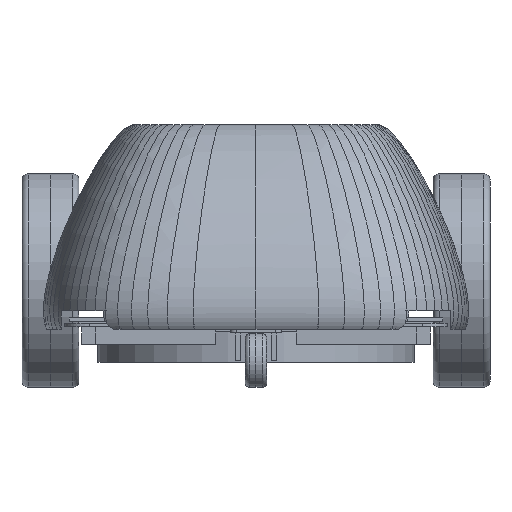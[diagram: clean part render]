
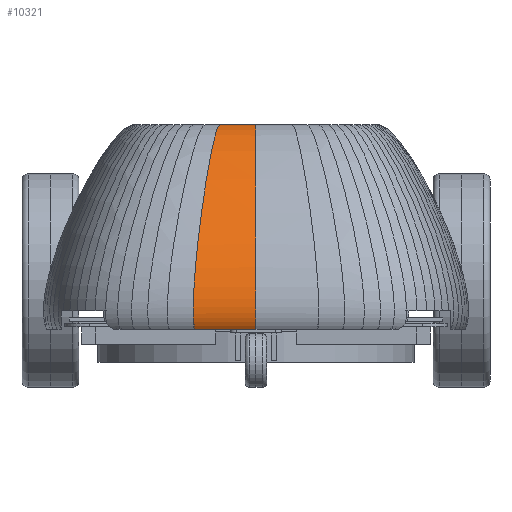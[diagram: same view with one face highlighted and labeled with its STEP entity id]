
A CAD part, left-side view. The second image highlights one B-rep face of the part: STEP entity #10321.
In plain terms, the highlighted free-form (B-spline) face has degree [1, 3] with [2, 4] control points.
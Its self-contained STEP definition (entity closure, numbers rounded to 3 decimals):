
#1055 = PLANE('',#1056);
#1056 = AXIS2_PLACEMENT_3D('',#1057,#1058,#1059);
#1057 = CARTESIAN_POINT('',(195.,0.,295.));
#1058 = DIRECTION('',(0.,0.,1.));
#1059 = DIRECTION('',(-0.984,0.178,0.));
#3799 = VERTEX_POINT('',#3800);
#3800 = CARTESIAN_POINT('',(-194.629,40.593,295.));
#3812 = ( BOUNDED_SURFACE() B_SPLINE_SURFACE(1,3,(
    (#3813,#3814,#3815,#3816)
    ,(#3817,#3818,#3819,#3820
)),.UNSPECIFIED.,.F.,.F.,.F.) B_SPLINE_SURFACE_WITH_KNOTS((2,2),(4,4),(
    34.,35.),(0.,1.),.PIECEWISE_BEZIER_KNOTS.) 
GEOMETRIC_REPRESENTATION_ITEM() RATIONAL_B_SPLINE_SURFACE((
    (1.,1.,1.,1.)
,(1.,1.,1.,1.))) REPRESENTATION_ITEM('') SURFACE() );
#3813 = CARTESIAN_POINT('',(-347.331,97.927,65.));
#3814 = CARTESIAN_POINT('',(-381.651,107.824,
    111.667));
#3815 = CARTESIAN_POINT('',(-259.671,70.841,
    293.333));
#3816 = CARTESIAN_POINT('',(-193.513,57.298,295.));
#3817 = CARTESIAN_POINT('',(-349.333,69.377,65.));
#3818 = CARTESIAN_POINT('',(-383.851,76.389,
    111.667));
#3819 = CARTESIAN_POINT('',(-261.168,50.188,
    293.333));
#3820 = CARTESIAN_POINT('',(-194.629,40.593,295.));
#3828 = EDGE_CURVE('',#3799,#3829,#3831,.T.);
#3829 = VERTEX_POINT('',#3830);
#3830 = CARTESIAN_POINT('',(-195.,0.,295.));
#3831 = SURFACE_CURVE('',#3832,(#3835,#3841),.PCURVE_S1.);
#3832 = B_SPLINE_CURVE_WITH_KNOTS('',1,(#3833,#3834),.UNSPECIFIED.,.F.,
  .F.,(2,2),(35.,36.),.PIECEWISE_BEZIER_KNOTS.);
#3833 = CARTESIAN_POINT('',(-194.629,40.593,295.));
#3834 = CARTESIAN_POINT('',(-195.,0.,295.));
#3835 = PCURVE('',#1055,#3836);
#3836 = DEFINITIONAL_REPRESENTATION('',(#3837),#3840);
#3837 = B_SPLINE_CURVE_WITH_KNOTS('',1,(#3838,#3839),.UNSPECIFIED.,.F.,
  .F.,(2,2),(35.,36.),.PIECEWISE_BEZIER_KNOTS.);
#3838 = CARTESIAN_POINT('',(390.631,29.421));
#3839 = CARTESIAN_POINT('',(383.77,69.431));
#3840 = ( GEOMETRIC_REPRESENTATION_CONTEXT(2) 
PARAMETRIC_REPRESENTATION_CONTEXT() REPRESENTATION_CONTEXT('2D SPACE',''
  ) );
#3841 = PCURVE('',#3842,#3851);
#3842 = ( BOUNDED_SURFACE() B_SPLINE_SURFACE(1,3,(
    (#3843,#3844,#3845,#3846)
    ,(#3847,#3848,#3849,#3850
)),.UNSPECIFIED.,.F.,.F.,.F.) B_SPLINE_SURFACE_WITH_KNOTS((2,2),(4,4),(
    35.,36.),(0.,1.),.PIECEWISE_BEZIER_KNOTS.) 
GEOMETRIC_REPRESENTATION_ITEM() RATIONAL_B_SPLINE_SURFACE((
    (1.,1.,1.,1.)
,(1.,1.,1.,1.))) REPRESENTATION_ITEM('') SURFACE() );
#3843 = CARTESIAN_POINT('',(-349.333,69.377,65.));
#3844 = CARTESIAN_POINT('',(-383.851,76.389,
    111.667));
#3845 = CARTESIAN_POINT('',(-261.168,50.188,
    293.333));
#3846 = CARTESIAN_POINT('',(-194.629,40.593,295.));
#3847 = CARTESIAN_POINT('',(-350.,0.,65.));
#3848 = CARTESIAN_POINT('',(-384.583,0.,
    111.667));
#3849 = CARTESIAN_POINT('',(-261.667,0.,
    293.333));
#3850 = CARTESIAN_POINT('',(-195.,0.,295.));
#3851 = DEFINITIONAL_REPRESENTATION('',(#3852),#3856);
#3852 = LINE('',#3853,#3854);
#3853 = CARTESIAN_POINT('',(0.,1.));
#3854 = VECTOR('',#3855,1.);
#3855 = DIRECTION('',(1.,0.));
#3856 = ( GEOMETRIC_REPRESENTATION_CONTEXT(2) 
PARAMETRIC_REPRESENTATION_CONTEXT() REPRESENTATION_CONTEXT('2D SPACE',''
  ) );
#3872 = ( BOUNDED_SURFACE() B_SPLINE_SURFACE(1,3,(
    (#3873,#3874,#3875,#3876)
    ,(#3877,#3878,#3879,#3880
)),.UNSPECIFIED.,.F.,.F.,.F.) B_SPLINE_SURFACE_WITH_KNOTS((2,2),(4,4),(
    36.,37.),(0.,1.),.PIECEWISE_BEZIER_KNOTS.) 
GEOMETRIC_REPRESENTATION_ITEM() RATIONAL_B_SPLINE_SURFACE((
    (1.,1.,1.,1.)
,(1.,1.,1.,1.))) REPRESENTATION_ITEM('') SURFACE() );
#3873 = CARTESIAN_POINT('',(-350.,0.,65.));
#3874 = CARTESIAN_POINT('',(-384.583,0.,
    111.667));
#3875 = CARTESIAN_POINT('',(-261.667,0.,
    293.333));
#3876 = CARTESIAN_POINT('',(-195.,0.,295.));
#3877 = CARTESIAN_POINT('',(-349.333,-69.377,65.));
#3878 = CARTESIAN_POINT('',(-383.851,-76.389,
    111.667));
#3879 = CARTESIAN_POINT('',(-261.168,-50.188,
    293.333));
#3880 = CARTESIAN_POINT('',(-194.629,-40.593,295.));
#10095 = PLANE('',#10096);
#10096 = AXIS2_PLACEMENT_3D('',#10097,#10098,#10099);
#10097 = CARTESIAN_POINT('',(350.,0.,65.));
#10098 = DIRECTION('',(0.,0.,1.));
#10099 = DIRECTION('',(-0.985,0.17,0.));
#10278 = VERTEX_POINT('',#10279);
#10279 = CARTESIAN_POINT('',(-349.333,69.377,65.));
#10298 = EDGE_CURVE('',#10278,#3799,#10299,.T.);
#10299 = SURFACE_CURVE('',#10300,(#10305,#10312),.PCURVE_S1.);
#10300 = ( BOUNDED_CURVE() B_SPLINE_CURVE(3,(#10301,#10302,#10303,#10304
),.UNSPECIFIED.,.F.,.F.) B_SPLINE_CURVE_WITH_KNOTS((4,4),(0.,1.),
.PIECEWISE_BEZIER_KNOTS.) CURVE() GEOMETRIC_REPRESENTATION_ITEM() 
RATIONAL_B_SPLINE_CURVE((1.,1.,1.,1.)) REPRESENTATION_ITEM('') );
#10301 = CARTESIAN_POINT('',(-349.333,69.377,65.));
#10302 = CARTESIAN_POINT('',(-383.851,76.389,
    111.667));
#10303 = CARTESIAN_POINT('',(-261.168,50.188,
    293.333));
#10304 = CARTESIAN_POINT('',(-194.629,40.593,295.));
#10305 = PCURVE('',#3812,#10306);
#10306 = DEFINITIONAL_REPRESENTATION('',(#10307),#10311);
#10307 = LINE('',#10308,#10309);
#10308 = CARTESIAN_POINT('',(35.,0.));
#10309 = VECTOR('',#10310,1.);
#10310 = DIRECTION('',(0.,1.));
#10311 = ( GEOMETRIC_REPRESENTATION_CONTEXT(2) 
PARAMETRIC_REPRESENTATION_CONTEXT() REPRESENTATION_CONTEXT('2D SPACE',''
  ) );
#10312 = PCURVE('',#3842,#10313);
#10313 = DEFINITIONAL_REPRESENTATION('',(#10314),#10318);
#10314 = LINE('',#10315,#10316);
#10315 = CARTESIAN_POINT('',(35.,0.));
#10316 = VECTOR('',#10317,1.);
#10317 = DIRECTION('',(0.,1.));
#10318 = ( GEOMETRIC_REPRESENTATION_CONTEXT(2) 
PARAMETRIC_REPRESENTATION_CONTEXT() REPRESENTATION_CONTEXT('2D SPACE',''
  ) );
#10321 = ADVANCED_FACE('',(#10322),#3842,.T.);
#10322 = FACE_BOUND('',#10323,.T.);
#10323 = EDGE_LOOP('',(#10324,#10345,#10367,#10368));
#10324 = ORIENTED_EDGE('',*,*,#10325,.T.);
#10325 = EDGE_CURVE('',#10278,#10326,#10328,.T.);
#10326 = VERTEX_POINT('',#10327);
#10327 = CARTESIAN_POINT('',(-350.,0.,65.));
#10328 = SURFACE_CURVE('',#10329,(#10332,#10339),.PCURVE_S1.);
#10329 = B_SPLINE_CURVE_WITH_KNOTS('',1,(#10330,#10331),.UNSPECIFIED.,
  .F.,.F.,(2,2),(35.,36.),.PIECEWISE_BEZIER_KNOTS.);
#10330 = CARTESIAN_POINT('',(-349.333,69.377,65.));
#10331 = CARTESIAN_POINT('',(-350.,0.,65.));
#10332 = PCURVE('',#3842,#10333);
#10333 = DEFINITIONAL_REPRESENTATION('',(#10334),#10338);
#10334 = LINE('',#10335,#10336);
#10335 = CARTESIAN_POINT('',(0.,0.));
#10336 = VECTOR('',#10337,1.);
#10337 = DIRECTION('',(1.,0.));
#10338 = ( GEOMETRIC_REPRESENTATION_CONTEXT(2) 
PARAMETRIC_REPRESENTATION_CONTEXT() REPRESENTATION_CONTEXT('2D SPACE',''
  ) );
#10339 = PCURVE('',#10095,#10340);
#10340 = DEFINITIONAL_REPRESENTATION('',(#10341),#10344);
#10341 = B_SPLINE_CURVE_WITH_KNOTS('',1,(#10342,#10343),.UNSPECIFIED.,
  .F.,.F.,(2,2),(35.,36.),.PIECEWISE_BEZIER_KNOTS.);
#10342 = CARTESIAN_POINT('',(700.96,50.357));
#10343 = CARTESIAN_POINT('',(689.838,118.84));
#10344 = ( GEOMETRIC_REPRESENTATION_CONTEXT(2) 
PARAMETRIC_REPRESENTATION_CONTEXT() REPRESENTATION_CONTEXT('2D SPACE',''
  ) );
#10345 = ORIENTED_EDGE('',*,*,#10346,.T.);
#10346 = EDGE_CURVE('',#10326,#3829,#10347,.T.);
#10347 = SURFACE_CURVE('',#10348,(#10353,#10360),.PCURVE_S1.);
#10348 = ( BOUNDED_CURVE() B_SPLINE_CURVE(3,(#10349,#10350,#10351,#10352
),.UNSPECIFIED.,.F.,.F.) B_SPLINE_CURVE_WITH_KNOTS((4,4),(0.,1.),
.PIECEWISE_BEZIER_KNOTS.) CURVE() GEOMETRIC_REPRESENTATION_ITEM() 
RATIONAL_B_SPLINE_CURVE((1.,1.,1.,1.)) REPRESENTATION_ITEM('') );
#10349 = CARTESIAN_POINT('',(-350.,0.,65.));
#10350 = CARTESIAN_POINT('',(-384.583,0.,
    111.667));
#10351 = CARTESIAN_POINT('',(-261.667,0.,
    293.333));
#10352 = CARTESIAN_POINT('',(-195.,0.,295.));
#10353 = PCURVE('',#3842,#10354);
#10354 = DEFINITIONAL_REPRESENTATION('',(#10355),#10359);
#10355 = LINE('',#10356,#10357);
#10356 = CARTESIAN_POINT('',(36.,0.));
#10357 = VECTOR('',#10358,1.);
#10358 = DIRECTION('',(0.,1.));
#10359 = ( GEOMETRIC_REPRESENTATION_CONTEXT(2) 
PARAMETRIC_REPRESENTATION_CONTEXT() REPRESENTATION_CONTEXT('2D SPACE',''
  ) );
#10360 = PCURVE('',#3872,#10361);
#10361 = DEFINITIONAL_REPRESENTATION('',(#10362),#10366);
#10362 = LINE('',#10363,#10364);
#10363 = CARTESIAN_POINT('',(36.,0.));
#10364 = VECTOR('',#10365,1.);
#10365 = DIRECTION('',(0.,1.));
#10366 = ( GEOMETRIC_REPRESENTATION_CONTEXT(2) 
PARAMETRIC_REPRESENTATION_CONTEXT() REPRESENTATION_CONTEXT('2D SPACE',''
  ) );
#10367 = ORIENTED_EDGE('',*,*,#3828,.F.);
#10368 = ORIENTED_EDGE('',*,*,#10298,.F.);
